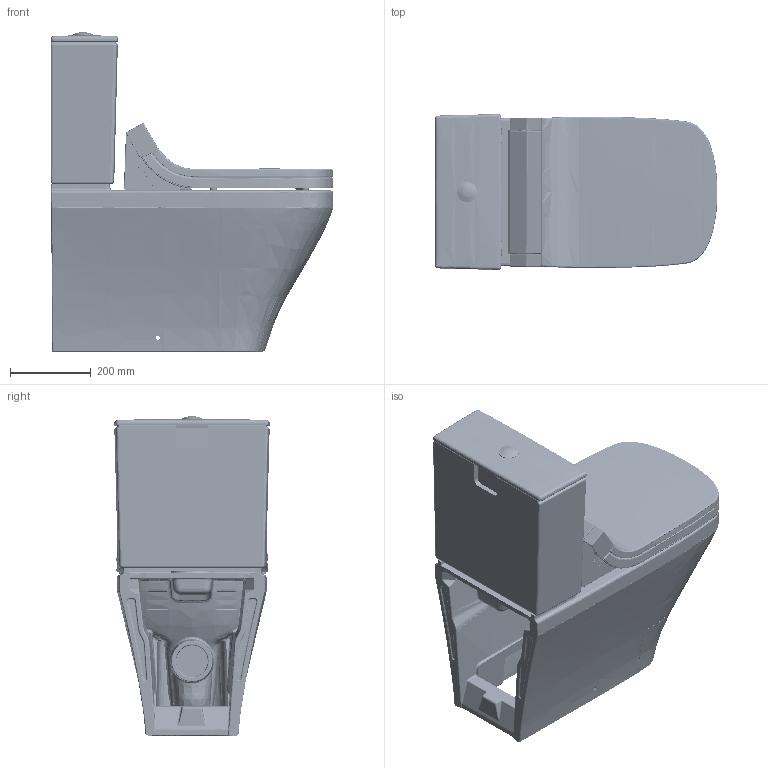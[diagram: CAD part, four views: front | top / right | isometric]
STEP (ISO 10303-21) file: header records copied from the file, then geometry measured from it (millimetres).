
FILE_DESCRIPTION((''),'2;1');
FILE_NAME('C:\Users\Administrator\Desktop\NEWS 2013\DuraStyle Keramik\3d\stp\215659_610200.stp','2013-05-29T14:15:26',('Administrator'),(''),'Autodesk Inventor 2011','Autodesk Inventor 2011','');
FILE_SCHEMA(('CONFIG_CONTROL_DESIGN'));
Length unit declared in the file: millimetre
Products named in the file (18): 215659_610200; 215659; 093500; SPK Taster Durastyle; 610200; CASE-ASSY_ASM; BODY-CASE; DECORATIVE-COVER; 1F219-01-01; SEAT_ASM; 1F221-A0-01; 1F221-B0-01; 1F218-B0-01; INFRARED-LEFT; BUTTON-MEMBRANE; HINGE-COVER-L; HINGE-COVER-R; LID-CUSHION
Assembly tree (21 placements, depth 5):
  215659_610200
    215659
    093500
    SPK Taster Durastyle
    610200
      CASE-ASSY_ASM
        BODY-CASE
        DECORATIVE-COVER
        1F219-01-01
        SEAT_ASM
          1F221-A0-01
          1F221-B0-01
          1F218-B0-01
        INFRARED-LEFT
        BUTTON-MEMBRANE
        HINGE-COVER-L
        HINGE-COVER-R
        LID-CUSHION  x2
        1F218-B0-01  x3
Bounding box: 700.82 x 387.03 x 792.49 mm (x, y, z)
Volume: 37593093.9 mm3; surface area: 4133862.8 mm2
Topology: 22 solids, 25 shells, 7813 faces, 19661 edges, 11945 vertices
Faces by surface type: bspline 3000, plane 2395, cylinder 1367, torus 495, cone 419, sphere 137
Full cylindrical faces by diameter (mm): 2 x1, 2.4 x2, 2.5 x1, 2.6 x3, 2.9 x3, 3 x1, 3.2 x3, 3.8 x4, 4 x6, 4.2 x2, 4.5 x1, 5 x4, 6 x2, 7.5 x8, 8 x11, 9 x2, 9.6 x4, 10 x7, 14.5 x2, 15 x2, 15.2 x2, 18 x1, 19 x1, 20 x1, 28.2 x1, 40 x2, 50 x1, 63 x1
Entity records: 527895 total; most frequent: CARTESIAN_POINT 364852, ORIENTED_EDGE 36232, DIRECTION 26361, EDGE_CURVE 18116, VERTEX_POINT 11177, AXIS2_PLACEMENT_3D 9660, EDGE_LOOP 7667, FACE_OUTER_BOUND 7268
